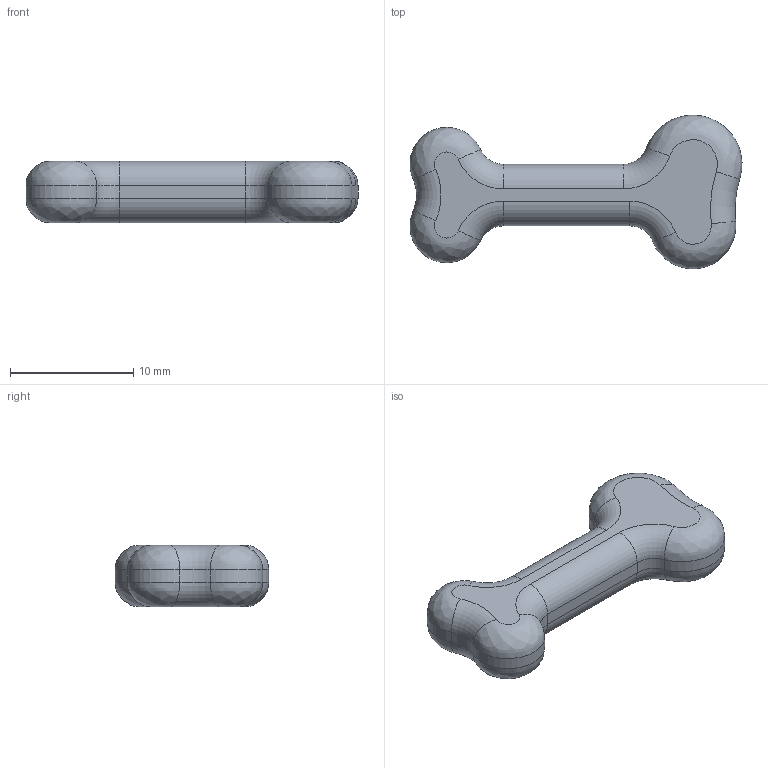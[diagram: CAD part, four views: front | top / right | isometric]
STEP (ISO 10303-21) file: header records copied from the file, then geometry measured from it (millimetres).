
FILE_DESCRIPTION(/* description */ ('','CAx-IF Rec.Pracs.---Representation and Presentation of Product Manufacturing Information (PMI)---4.0---2014-10-13'),/* implementation_level */ '2;1');
FILE_NAME(/* name */ 'Knochen.step',/* time_stamp */ '2024-12-13T22:26:01+01:00',/* author */ (''),/* organization */ (''),/* preprocessor_version */ 'ST-DEVELOPER v20',/* originating_system */ 'Autodesk Translation Framework v13.20.0.188',/* authorisation */ '');
FILE_SCHEMA (('AP242_MANAGED_MODEL_BASED_3D_ENGINEERING_MIM_LF { 1 0 10303 442 1 1 4 }'));
Length unit declared in the file: millimetre
Products named in the file (1): 01_Knochen
Bounding box: 26.99 x 12.5 x 5 mm (x, y, z)
Volume: 903.3 mm3; surface area: 661.7 mm2
Topology: 1 solids, 1 shells, 38 faces, 84 edges, 48 vertices
Faces by surface type: cylinder 14, torus 12, bspline 8, plane 4
Entity records: 1204 total; most frequent: CARTESIAN_POINT 307, DIRECTION 210, ORIENTED_EDGE 168, AXIS2_PLACEMENT_3D 95, EDGE_CURVE 84, CIRCLE 64, VERTEX_POINT 48, FACE_OUTER_BOUND 38
